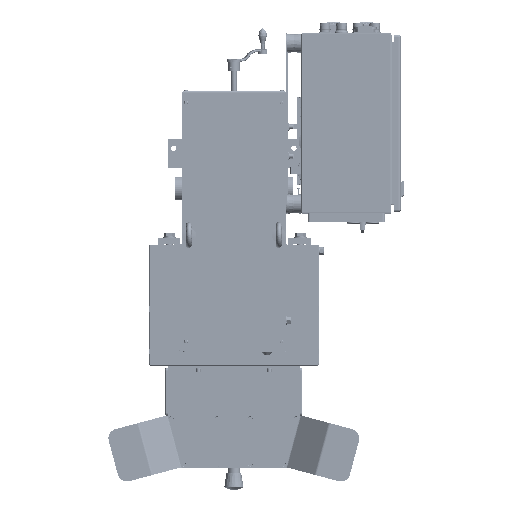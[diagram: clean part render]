
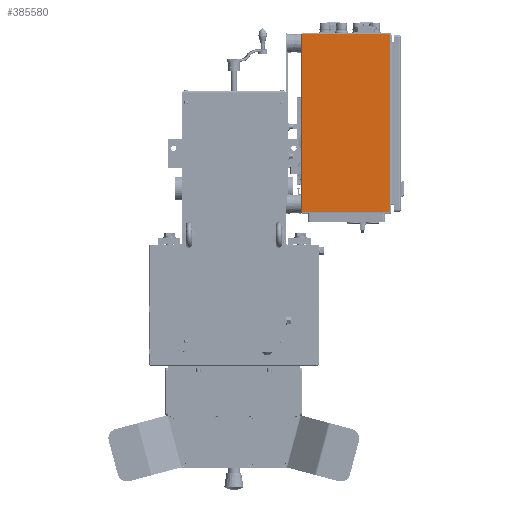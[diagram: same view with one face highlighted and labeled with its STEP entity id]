
A CAD part, top view. The second image highlights one B-rep face of the part: STEP entity #385580.
In plain terms, the highlighted planar face has unit normal (0, 0, 1) as drawn and (0, 1, 0) by its records, which use the part's own axes.
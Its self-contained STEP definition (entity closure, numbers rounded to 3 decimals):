
#33496=LINE('',#608505,#67480);
#33497=LINE('',#608508,#67481);
#33498=LINE('',#608510,#67482);
#33499=LINE('',#608511,#67483);
#67480=VECTOR('',#463066,10.);
#67481=VECTOR('',#463069,10.);
#67482=VECTOR('',#463070,10.);
#67483=VECTOR('',#463071,10.);
#100469=FACE_OUTER_BOUND('',#121997,.T.);
#121997=EDGE_LOOP('',(#288491,#288492,#288493,#288494));
#161127=VERTEX_POINT('',#608501);
#161128=VERTEX_POINT('',#608503);
#161129=VERTEX_POINT('',#608507);
#161130=VERTEX_POINT('',#608509);
#206670=EDGE_CURVE('',#161128,#161127,#33496,.T.);
#206671=EDGE_CURVE('',#161129,#161127,#33497,.T.);
#206672=EDGE_CURVE('',#161128,#161130,#33498,.T.);
#206673=EDGE_CURVE('',#161130,#161129,#33499,.T.);
#288491=ORIENTED_EDGE('',*,*,#206671,.T.);
#288492=ORIENTED_EDGE('',*,*,#206670,.F.);
#288493=ORIENTED_EDGE('',*,*,#206672,.T.);
#288494=ORIENTED_EDGE('',*,*,#206673,.T.);
#349681=PLANE('',#408135);
#385580=ADVANCED_FACE('',(#100469),#349681,.T.);
#408135=AXIS2_PLACEMENT_3D('',#608506,#463067,#463068);
#463066=DIRECTION('',(0.,0.,-1.));
#463067=DIRECTION('center_axis',(0.,1.,0.));
#463068=DIRECTION('ref_axis',(1.,0.,0.));
#463069=DIRECTION('',(-1.,0.,0.));
#463070=DIRECTION('',(1.,0.,0.));
#463071=DIRECTION('',(0.,0.,-1.));
#608501=CARTESIAN_POINT('',(94.513,985.,-244.999));
#608503=CARTESIAN_POINT('',(94.489,985.,131.001));
#608505=CARTESIAN_POINT('',(94.501,985.,-56.999));
#608506=CARTESIAN_POINT('Origin',(280.501,985.,-56.988));
#608507=CARTESIAN_POINT('',(280.513,985.,-244.988));
#608508=CARTESIAN_POINT('',(94.513,985.,-244.999));
#608509=CARTESIAN_POINT('',(280.489,985.,131.012));
#608510=CARTESIAN_POINT('',(94.489,985.,131.001));
#608511=CARTESIAN_POINT('',(280.501,985.,-56.988));
